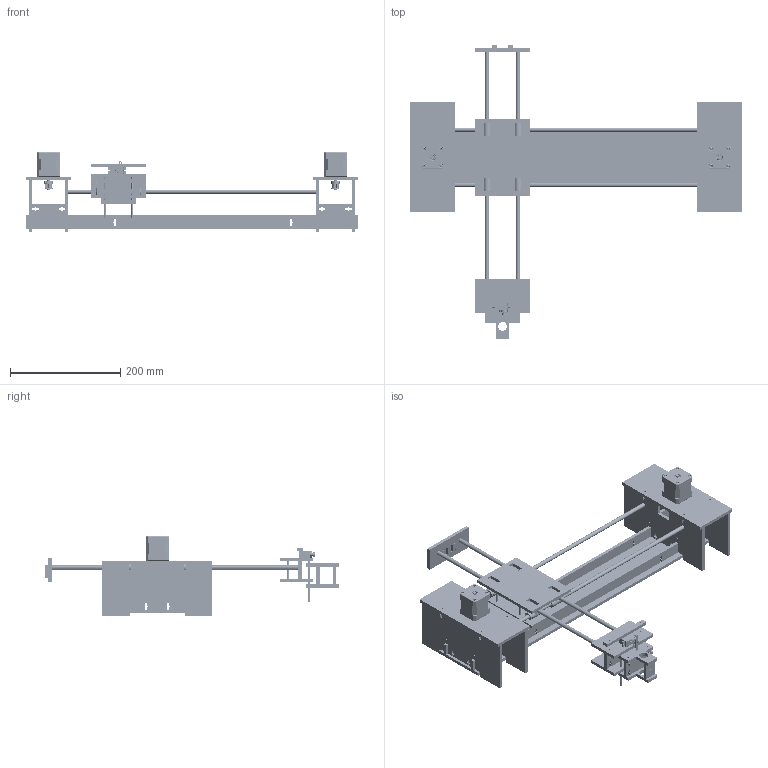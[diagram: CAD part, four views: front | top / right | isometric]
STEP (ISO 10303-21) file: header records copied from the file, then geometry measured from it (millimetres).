
FILE_DESCRIPTION(/* description */ (''),/* implementation_level */ '2;1');
FILE_NAME(/* name */ 'E:/fablab/work/machine week/Vidhya.step',/* time_stamp */ '2020-11-10T13:34:14+05:00',/* author */ (''),/* organization */ (''),/* preprocessor_version */ 'ST-DEVELOPER v18.1',/* originating_system */ 'Autodesk Translation Framework v9.3.0.1241',/* authorisation */ '');
FILE_SCHEMA (('AUTOMOTIVE_DESIGN { 1 0 10303 214 3 1 1 }'));
Products named in the file (90): 2d plotter 2; x-axis; bottom plate; motorbox_top 2; motorbox_lside 2; motorbox_top 1; motorbox_rside 1; motorbox_lside 1; motorbox_rside 2; NEMA 17 with T5 Pulley; Base; Cuerpo; Tapa; pan cross head_am_B18.6.7M - M3 x 0.5 x 5 Type I Cross Recessed PHMS 
--5N; Eje; instrument ball bearing_68_am_AFBMA 12.1.4.1 - 0050-11 - 10,SI,NC,10_
68; socket button head cap screw_am_B18.3.4M - 3 x 0.5 x 5 SBHCS --N; T5 Pulley; NEMA 17 with T5 Pulley v1(Mirror); Base(Mirror); Cuerpo(Mirror); Tapa(Mirror); pan cross head_am_B18.6.7M - M3 x 0.5 x 5 Type I Cross Recessed PHMS 
--5N(Mirror); Eje(Mirror); instrument ball bearing_68_am_AFBMA 12.1.4.1 - 0050-11 - 10,SI,NC,10_
68(Mirror); socket button head cap screw_am_B18.3.4M - 3 x 0.5 x 5 SBHCS --N(Mirr
or); T5 Pulley(Mirror); Lm8uu; Lm8uu_1; Lm8uu_2; Lm8uu_3; Lm8uu_4; Lm8uu_5; Lm8uu_6; Lm8uu_7; Component1; Component2; Component3; Component2(Mirror); Component3(Mirror) ...
Assembly tree (140 placements, depth 5):
  2d plotter 2
    x-axis
      bottom plate
      rod1
      rod 2
      motorbox_top 2
      motorbox_lside 2
      motorbox_top 1
      motorbox_rside 1
      motorbox_lside 1
      motorbox_rside 2
      NEMA 17 with T5 Pulley
        Base
        Cuerpo
        Tapa
        pan cross head_am_B18.6.7M - M3 x 0.5 x 5 Type I Cross Recessed PHMS 
--5N  x4
        Eje
        instrument ball bearing_68_am_AFBMA 12.1.4.1 - 0050-11 - 10,SI,NC,10_
68  x2
        socket button head cap screw_am_B18.3.4M - 3 x 0.5 x 5 SBHCS --N
        T5 Pulley
      NEMA 17 with T5 Pulley v1(Mirror)
        Base(Mirror)
        Cuerpo(Mirror)
        Tapa(Mirror)
        pan cross head_am_B18.6.7M - M3 x 0.5 x 5 Type I Cross Recessed PHMS 
--5N(Mirror)  x4
        Eje(Mirror)
        instrument ball bearing_68_am_AFBMA 12.1.4.1 - 0050-11 - 10,SI,NC,10_
68(Mirror)  x2
        socket button head cap screw_am_B18.3.4M - 3 x 0.5 x 5 SBHCS --N(Mirr
or)
        T5 Pulley(Mirror)
      Lm8uu
        Component1
        Component2
        Component3
        Component2(Mirror)
        Component3(Mirror)
      Lm8uu_1
        Component1
        Component2
        Component3
        Component2(Mirror)
        Component3(Mirror)
      Lm8uu_2
        Component1
        Component2
        Component3
        Component2(Mirror)
        Component3(Mirror)
      Lm8uu_3
        Component1
        Component2
        Component3
        Component2(Mirror)
        Component3(Mirror)
      Lm8uu_4
        Component1
        Component2
        Component3
        Component2(Mirror)
        Component3(Mirror)
      Lm8uu_5
Bounding box: 602 x 533.4 x 144 mm (x, y, z)
Volume: 1721999.3 mm3; surface area: 733014 mm2
Topology: 540 solids, 540 shells, 9583 faces, 23665 edges, 14619 vertices
Faces by surface type: plane 3854, cylinder 2649, bspline 1260, cone 1193, sphere 374, torus 253
Full cylindrical faces by diameter (mm): 0.151 x63, 0.35 x8, 0.667 x1, 0.75 x8, 0.76 x3, 0.8 x8, 0.89 x4, 0.934 x1, 1 x39, 1.2 x50, 1.291 x1, 1.335 x1, 1.379 x36, 1.5 x18, 1.847 x1, 2 x14, 2.25 x2, 2.403 x2, 2.447 x1, 2.5 x1, 2.67 x2, 2.737 x1, 3 x91, 3.1 x1, 3.2 x1, 3.4 x1, 3.56 x1, 3.6 x10, 4 x8, 4.1 x15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
Entity records: 266511 total; most frequent: CARTESIAN_POINT 83519, DIRECTION 37337, ORIENTED_EDGE 36304, EDGE_CURVE 18152, AXIS2_PLACEMENT_3D 13180, VERTEX_POINT 11257, LINE 10977, VECTOR 10977
